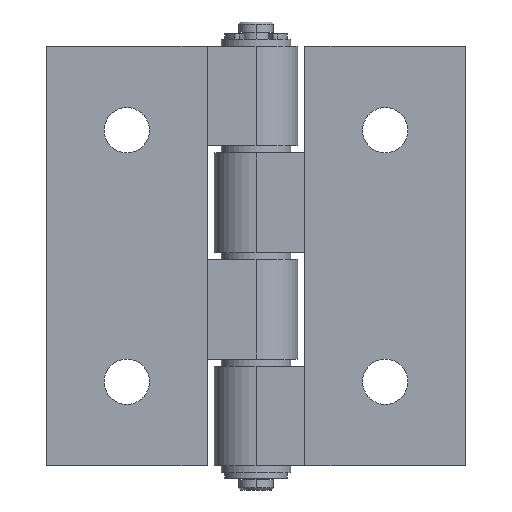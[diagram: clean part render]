
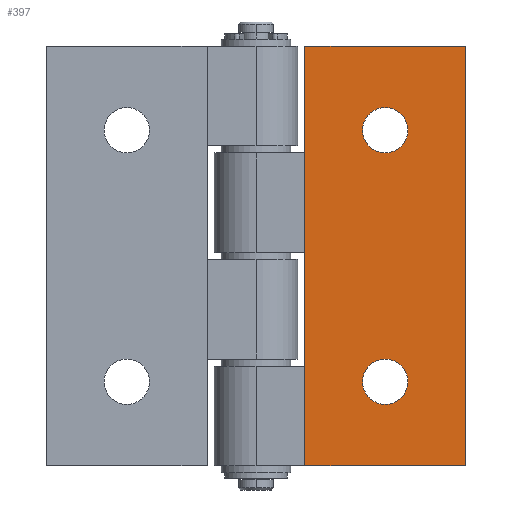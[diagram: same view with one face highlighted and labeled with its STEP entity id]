
A CAD part, front view. The second image highlights one B-rep face of the part: STEP entity #397.
In plain terms, the highlighted planar face has unit normal (0, -1, 0).
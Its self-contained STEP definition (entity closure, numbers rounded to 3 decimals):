
#12 = DIRECTION ( 'NONE',  ( 0., 1., 0. ) ) ;
#68 = LINE ( 'NONE', #572, #699 ) ;
#123 = ORIENTED_EDGE ( 'NONE', *, *, #553, .T. ) ;
#132 = DIRECTION ( 'NONE',  ( 0., 0., -1. ) ) ;
#175 = CARTESIAN_POINT ( 'NONE',  ( 7., -7., -30. ) ) ;
#176 = FACE_OUTER_BOUND ( 'NONE', #938, .T. ) ;
#237 = ORIENTED_EDGE ( 'NONE', *, *, #2448, .F. ) ;
#269 = EDGE_LOOP ( 'NONE', ( #723, #1898 ) ) ;
#285 = EDGE_LOOP ( 'NONE', ( #1804, #2934 ) ) ;
#287 = CARTESIAN_POINT ( 'NONE',  ( 18.5, -7., -18. ) ) ;
#295 = DIRECTION ( 'NONE',  ( 0., 1., 0. ) ) ;
#307 = DIRECTION ( 'NONE',  ( 0., 0., 1. ) ) ;
#331 = DIRECTION ( 'NONE',  ( 0., 0., 1. ) ) ;
#340 = CARTESIAN_POINT ( 'NONE',  ( 18.5, -7., -21.25 ) ) ;
#344 = CIRCLE ( 'NONE', #2758, 3.25 ) ;
#371 = EDGE_CURVE ( 'NONE', #1074, #2808, #1279, .T. ) ;
#397 = ADVANCED_FACE ( 'NONE', ( #2640, #805, #176 ), #1040, .F. ) ;
#499 = AXIS2_PLACEMENT_3D ( 'NONE', #287, #295, #331 ) ;
#510 = VERTEX_POINT ( 'NONE', #542 ) ;
#542 = CARTESIAN_POINT ( 'NONE',  ( 30., -7., 30. ) ) ;
#553 = EDGE_CURVE ( 'NONE', #1290, #1261, #2504, .T. ) ;
#568 = DIRECTION ( 'NONE',  ( 0., 1., 0. ) ) ;
#572 = CARTESIAN_POINT ( 'NONE',  ( 7., -7., 30. ) ) ;
#699 = VECTOR ( 'NONE', #132, 1000. ) ;
#707 = CARTESIAN_POINT ( 'NONE',  ( 18.5, -7., 14.75 ) ) ;
#723 = ORIENTED_EDGE ( 'NONE', *, *, #1871, .T. ) ;
#746 = EDGE_CURVE ( 'NONE', #510, #1261, #851, .T. ) ;
#771 = AXIS2_PLACEMENT_3D ( 'NONE', #2228, #1970, #307 ) ;
#805 = FACE_BOUND ( 'NONE', #269, .T. ) ;
#849 = ORIENTED_EDGE ( 'NONE', *, *, #746, .F. ) ;
#851 = LINE ( 'NONE', #2274, #1411 ) ;
#894 = VERTEX_POINT ( 'NONE', #1438 ) ;
#938 = EDGE_LOOP ( 'NONE', ( #123, #849, #237, #2632 ) ) ;
#991 = CARTESIAN_POINT ( 'NONE',  ( 7., -7., 30. ) ) ;
#1025 = CARTESIAN_POINT ( 'NONE',  ( 18.5, -7., -14.75 ) ) ;
#1040 = PLANE ( 'NONE',  #2243 ) ;
#1041 = DIRECTION ( 'NONE',  ( 0., 1., 0. ) ) ;
#1074 = VERTEX_POINT ( 'NONE', #1025 ) ;
#1128 = EDGE_CURVE ( 'NONE', #2808, #1074, #2614, .T. ) ;
#1132 = EDGE_CURVE ( 'NONE', #1418, #1290, #68, .T. ) ;
#1197 = CIRCLE ( 'NONE', #1289, 3.25 ) ;
#1207 = VECTOR ( 'NONE', #2160, 1000. ) ;
#1261 = VERTEX_POINT ( 'NONE', #1544 ) ;
#1274 = DIRECTION ( 'NONE',  ( 1., 0., 0. ) ) ;
#1279 = CIRCLE ( 'NONE', #771, 3.25 ) ;
#1289 = AXIS2_PLACEMENT_3D ( 'NONE', #1987, #568, #2246 ) ;
#1290 = VERTEX_POINT ( 'NONE', #175 ) ;
#1411 = VECTOR ( 'NONE', #1664, 1000. ) ;
#1418 = VERTEX_POINT ( 'NONE', #3086 ) ;
#1438 = CARTESIAN_POINT ( 'NONE',  ( 18.5, -7., 21.25 ) ) ;
#1544 = CARTESIAN_POINT ( 'NONE',  ( 30., -7., -30. ) ) ;
#1664 = DIRECTION ( 'NONE',  ( 0., 0., -1. ) ) ;
#1680 = DIRECTION ( 'NONE',  ( 0., 0., 1. ) ) ;
#1748 = VERTEX_POINT ( 'NONE', #707 ) ;
#1781 = VECTOR ( 'NONE', #1274, 1000. ) ;
#1804 = ORIENTED_EDGE ( 'NONE', *, *, #371, .T. ) ;
#1871 = EDGE_CURVE ( 'NONE', #894, #1748, #1197, .T. ) ;
#1898 = ORIENTED_EDGE ( 'NONE', *, *, #2528, .T. ) ;
#1919 = CARTESIAN_POINT ( 'NONE',  ( 7., -7., 30. ) ) ;
#1970 = DIRECTION ( 'NONE',  ( 0., 1., 0. ) ) ;
#1987 = CARTESIAN_POINT ( 'NONE',  ( 18.5, -7., 18. ) ) ;
#2160 = DIRECTION ( 'NONE',  ( 1., 0., 0. ) ) ;
#2228 = CARTESIAN_POINT ( 'NONE',  ( 18.5, -7., -18. ) ) ;
#2243 = AXIS2_PLACEMENT_3D ( 'NONE', #1919, #12, #1680 ) ;
#2246 = DIRECTION ( 'NONE',  ( 0., 0., 1. ) ) ;
#2274 = CARTESIAN_POINT ( 'NONE',  ( 30., -7., 30. ) ) ;
#2448 = EDGE_CURVE ( 'NONE', #1418, #510, #2484, .T. ) ;
#2456 = CARTESIAN_POINT ( 'NONE',  ( 7., -7., -30. ) ) ;
#2470 = CARTESIAN_POINT ( 'NONE',  ( 18.5, -7., 18. ) ) ;
#2484 = LINE ( 'NONE', #991, #1207 ) ;
#2504 = LINE ( 'NONE', #2456, #1781 ) ;
#2528 = EDGE_CURVE ( 'NONE', #1748, #894, #344, .T. ) ;
#2614 = CIRCLE ( 'NONE', #499, 3.25 ) ;
#2632 = ORIENTED_EDGE ( 'NONE', *, *, #1132, .T. ) ;
#2640 = FACE_BOUND ( 'NONE', #285, .T. ) ;
#2697 = DIRECTION ( 'NONE',  ( 0., 0., 1. ) ) ;
#2758 = AXIS2_PLACEMENT_3D ( 'NONE', #2470, #1041, #2697 ) ;
#2808 = VERTEX_POINT ( 'NONE', #340 ) ;
#2934 = ORIENTED_EDGE ( 'NONE', *, *, #1128, .T. ) ;
#3086 = CARTESIAN_POINT ( 'NONE',  ( 7., -7., 30. ) ) ;
